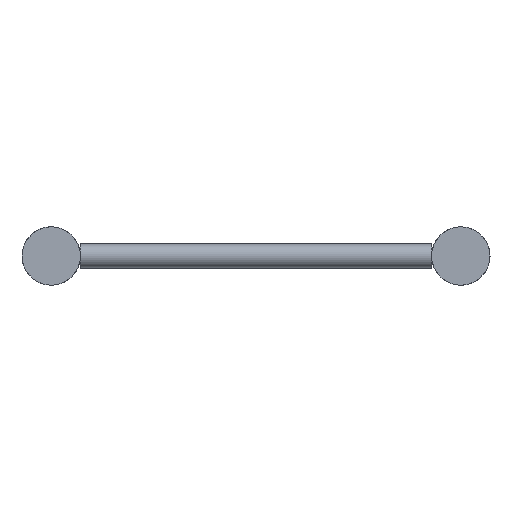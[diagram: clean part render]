
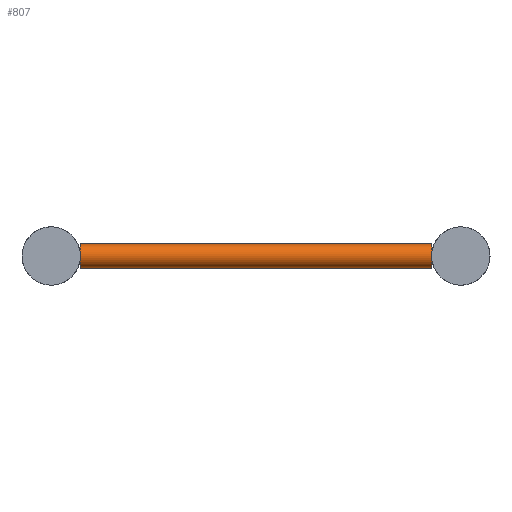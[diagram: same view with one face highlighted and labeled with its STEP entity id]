
A CAD part, left-side view. The second image highlights one B-rep face of the part: STEP entity #807.
In plain terms, the highlighted cylindrical face has radius 10 mm (diameter 20 mm), a full revolution.
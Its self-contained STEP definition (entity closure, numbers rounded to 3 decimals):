
#117=FACE_BOUND('',#257,.T.);
#188=FACE_OUTER_BOUND('',#256,.T.);
#256=EDGE_LOOP('',(#593,#594));
#257=EDGE_LOOP('',(#595,#596));
#341=CIRCLE('',#894,10.);
#342=CIRCLE('',#896,10.);
#343=CIRCLE('',#898,10.);
#344=CIRCLE('',#900,10.);
#393=VERTEX_POINT('',#1275);
#394=VERTEX_POINT('',#1276);
#395=VERTEX_POINT('',#1280);
#396=VERTEX_POINT('',#1281);
#472=EDGE_CURVE('',#394,#393,#341,.T.);
#474=EDGE_CURVE('',#396,#395,#342,.T.);
#475=EDGE_CURVE('',#393,#394,#343,.T.);
#476=EDGE_CURVE('',#395,#396,#344,.T.);
#593=ORIENTED_EDGE('',*,*,#472,.T.);
#594=ORIENTED_EDGE('',*,*,#475,.T.);
#595=ORIENTED_EDGE('',*,*,#474,.T.);
#596=ORIENTED_EDGE('',*,*,#476,.T.);
#707=CYLINDRICAL_SURFACE('',#899,10.);
#807=ADVANCED_FACE('',(#188,#117),#707,.T.);
#894=AXIS2_PLACEMENT_3D('',#1278,#1068,#1069);
#896=AXIS2_PLACEMENT_3D('',#1283,#1073,#1074);
#898=AXIS2_PLACEMENT_3D('',#1285,#1077,#1078);
#899=AXIS2_PLACEMENT_3D('',#1286,#1079,#1080);
#900=AXIS2_PLACEMENT_3D('',#1287,#1081,#1082);
#1068=DIRECTION('center_axis',(0.,1.,0.));
#1069=DIRECTION('ref_axis',(-1.,0.,0.));
#1073=DIRECTION('center_axis',(0.,-1.,0.));
#1074=DIRECTION('ref_axis',(-1.,0.,0.));
#1077=DIRECTION('center_axis',(0.,1.,0.));
#1078=DIRECTION('ref_axis',(-1.,0.,0.));
#1079=DIRECTION('center_axis',(0.,1.,0.));
#1080=DIRECTION('ref_axis',(-1.,0.,0.));
#1081=DIRECTION('center_axis',(0.,-1.,0.));
#1082=DIRECTION('ref_axis',(-1.,0.,0.));
#1275=CARTESIAN_POINT('',(50.,24.15,0.));
#1276=CARTESIAN_POINT('',(70.,24.15,0.));
#1278=CARTESIAN_POINT('Origin',(60.,24.15,0.));
#1280=CARTESIAN_POINT('',(50.,314.85,0.));
#1281=CARTESIAN_POINT('',(70.,314.85,0.));
#1283=CARTESIAN_POINT('Origin',(60.,314.85,0.));
#1285=CARTESIAN_POINT('Origin',(60.,24.15,0.));
#1286=CARTESIAN_POINT('Origin',(60.,169.5,0.));
#1287=CARTESIAN_POINT('Origin',(60.,314.85,0.));
